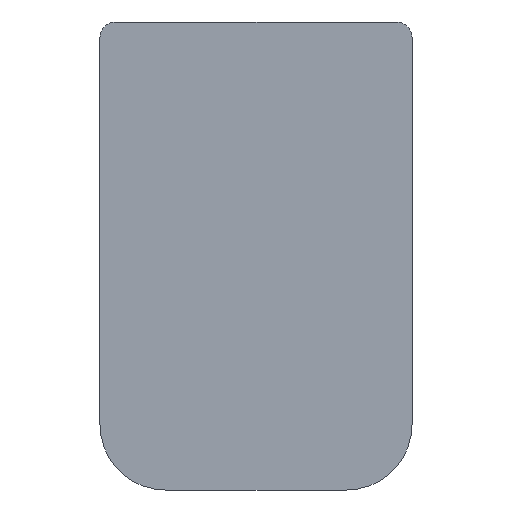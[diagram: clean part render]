
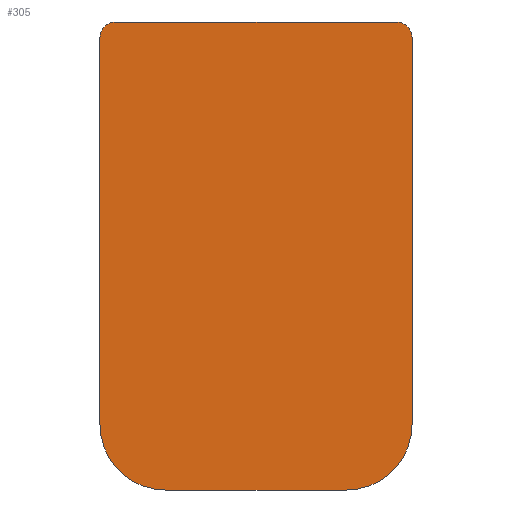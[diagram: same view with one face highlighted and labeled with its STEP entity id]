
A CAD part, front view. The second image highlights one B-rep face of the part: STEP entity #305.
In plain terms, the highlighted planar face has unit normal (0, -1, 0).
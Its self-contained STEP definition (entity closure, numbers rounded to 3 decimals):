
#13 = DIRECTION ( 'NONE',  ( 0., -1., 0. ) ) ;
#17 = CARTESIAN_POINT ( 'NONE',  ( 7.1, 0., 2.1 ) ) ;
#22 = VECTOR ( 'NONE', #725, 1000. ) ;
#35 = AXIS2_PLACEMENT_3D ( 'NONE', #868, #166, #685 ) ;
#43 = VECTOR ( 'NONE', #92, 1000. ) ;
#66 = DIRECTION ( 'NONE',  ( 1., 0., 0. ) ) ;
#92 = DIRECTION ( 'NONE',  ( 0., 0., -1. ) ) ;
#95 = LINE ( 'NONE', #1029, #834 ) ;
#106 = VECTOR ( 'NONE', #715, 1000. ) ;
#109 = AXIS2_PLACEMENT_3D ( 'NONE', #224, #852, #864 ) ;
#114 = ORIENTED_EDGE ( 'NONE', *, *, #955, .T. ) ;
#145 = ORIENTED_EDGE ( 'NONE', *, *, #984, .T. ) ;
#161 = CIRCLE ( 'NONE', #1030, 0.5 ) ;
#166 = DIRECTION ( 'NONE',  ( 0., -1., 0. ) ) ;
#172 = CARTESIAN_POINT ( 'NONE',  ( 15., 0., 2.1 ) ) ;
#197 = CARTESIAN_POINT ( 'NONE',  ( 0., 0., 15. ) ) ;
#198 = CARTESIAN_POINT ( 'NONE',  ( 5., 0., 14.5 ) ) ;
#207 = EDGE_CURVE ( 'NONE', #645, #371, #161, .T. ) ;
#224 = CARTESIAN_POINT ( 'NONE',  ( 0., 0., 15. ) ) ;
#247 = CARTESIAN_POINT ( 'NONE',  ( 14.5, 0., 15. ) ) ;
#284 = ORIENTED_EDGE ( 'NONE', *, *, #619, .T. ) ;
#305 = ADVANCED_FACE ( 'NONE', ( #802 ), #505, .F. ) ;
#307 = EDGE_CURVE ( 'NONE', #851, #353, #95, .T. ) ;
#333 = LINE ( 'NONE', #907, #106 ) ;
#345 = DIRECTION ( 'NONE',  ( 0., 0., 1. ) ) ;
#353 = VERTEX_POINT ( 'NONE', #415 ) ;
#355 = CARTESIAN_POINT ( 'NONE',  ( 7.1, 0., 0. ) ) ;
#371 = VERTEX_POINT ( 'NONE', #247 ) ;
#415 = CARTESIAN_POINT ( 'NONE',  ( 12.9, 0., 0. ) ) ;
#434 = EDGE_LOOP ( 'NONE', ( #114, #1065, #738, #145, #284, #892, #618, #890 ) ) ;
#450 = CARTESIAN_POINT ( 'NONE',  ( 5., 0., 2.1 ) ) ;
#460 = EDGE_CURVE ( 'NONE', #353, #621, #716, .T. ) ;
#474 = LINE ( 'NONE', #197, #22 ) ;
#492 = VERTEX_POINT ( 'NONE', #885 ) ;
#500 = DIRECTION ( 'NONE',  ( 0., 0., 1. ) ) ;
#505 = PLANE ( 'NONE',  #109 ) ;
#506 = CIRCLE ( 'NONE', #997, 0.5 ) ;
#547 = CARTESIAN_POINT ( 'NONE',  ( 5.5, 0., 14.5 ) ) ;
#611 = CARTESIAN_POINT ( 'NONE',  ( 15., 0., 14.5 ) ) ;
#615 = LINE ( 'NONE', #812, #43 ) ;
#618 = ORIENTED_EDGE ( 'NONE', *, *, #307, .T. ) ;
#619 = EDGE_CURVE ( 'NONE', #951, #734, #615, .T. ) ;
#621 = VERTEX_POINT ( 'NONE', #172 ) ;
#637 = DIRECTION ( 'NONE',  ( 0., -1., 0. ) ) ;
#645 = VERTEX_POINT ( 'NONE', #611 ) ;
#675 = CIRCLE ( 'NONE', #848, 2.1 ) ;
#685 = DIRECTION ( 'NONE',  ( 0., 0., 1. ) ) ;
#715 = DIRECTION ( 'NONE',  ( 0., 0., 1. ) ) ;
#716 = CIRCLE ( 'NONE', #35, 2.1 ) ;
#725 = DIRECTION ( 'NONE',  ( 1., 0., 0. ) ) ;
#734 = VERTEX_POINT ( 'NONE', #450 ) ;
#735 = DIRECTION ( 'NONE',  ( 0., 0., 1. ) ) ;
#737 = EDGE_CURVE ( 'NONE', #492, #371, #474, .T. ) ;
#738 = ORIENTED_EDGE ( 'NONE', *, *, #737, .F. ) ;
#757 = EDGE_CURVE ( 'NONE', #734, #851, #675, .T. ) ;
#802 = FACE_OUTER_BOUND ( 'NONE', #434, .T. ) ;
#812 = CARTESIAN_POINT ( 'NONE',  ( 5., 0., -0.578 ) ) ;
#834 = VECTOR ( 'NONE', #66, 1000. ) ;
#848 = AXIS2_PLACEMENT_3D ( 'NONE', #17, #13, #345 ) ;
#851 = VERTEX_POINT ( 'NONE', #355 ) ;
#852 = DIRECTION ( 'NONE',  ( 0., 1., 0. ) ) ;
#856 = DIRECTION ( 'NONE',  ( 0., -1., 0. ) ) ;
#864 = DIRECTION ( 'NONE',  ( 0., 0., 1. ) ) ;
#868 = CARTESIAN_POINT ( 'NONE',  ( 12.9, 0., 2.1 ) ) ;
#885 = CARTESIAN_POINT ( 'NONE',  ( 5.5, 0., 15. ) ) ;
#890 = ORIENTED_EDGE ( 'NONE', *, *, #460, .T. ) ;
#892 = ORIENTED_EDGE ( 'NONE', *, *, #757, .T. ) ;
#907 = CARTESIAN_POINT ( 'NONE',  ( 15., 0., -0.578 ) ) ;
#951 = VERTEX_POINT ( 'NONE', #198 ) ;
#955 = EDGE_CURVE ( 'NONE', #621, #645, #333, .T. ) ;
#984 = EDGE_CURVE ( 'NONE', #492, #951, #506, .T. ) ;
#997 = AXIS2_PLACEMENT_3D ( 'NONE', #547, #637, #735 ) ;
#1029 = CARTESIAN_POINT ( 'NONE',  ( 0., 0., 0. ) ) ;
#1030 = AXIS2_PLACEMENT_3D ( 'NONE', #1113, #856, #500 ) ;
#1065 = ORIENTED_EDGE ( 'NONE', *, *, #207, .T. ) ;
#1113 = CARTESIAN_POINT ( 'NONE',  ( 14.5, 0., 14.5 ) ) ;
